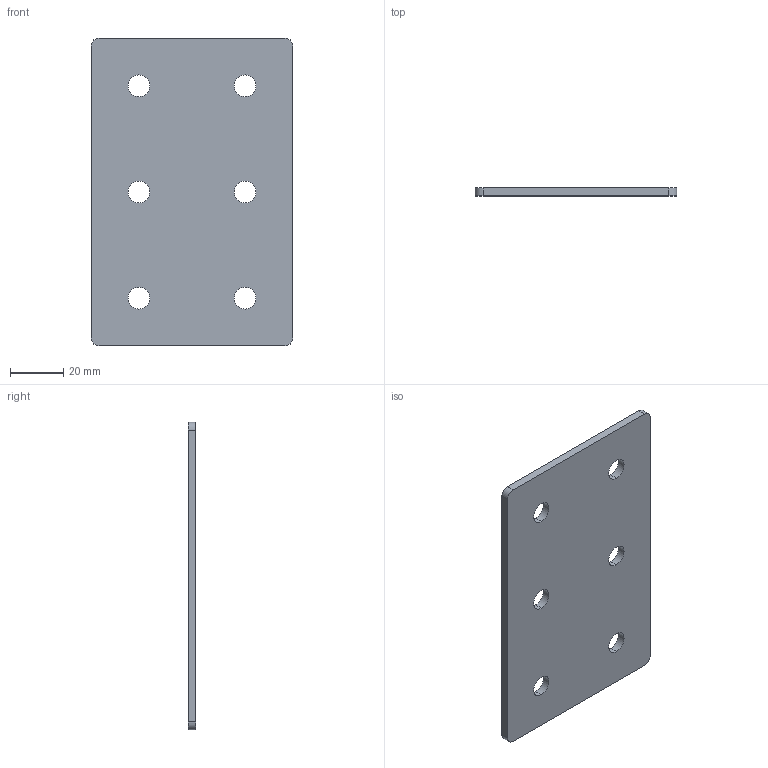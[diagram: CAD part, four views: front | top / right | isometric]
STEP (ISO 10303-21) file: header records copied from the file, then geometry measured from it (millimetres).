
FILE_DESCRIPTION (( 'STEP AP203' ), '1' );
FILE_NAME ('ﾏ-6-40.STEP', '2016-07-23T15:16:29', ( '' ), ( '' ), 'SwSTEP 2.0', 'SolidWorks 2014', '' );
FILE_SCHEMA (( 'CONFIG_CONTROL_DESIGN' ));
Length unit declared in the file: millimetre
Products named in the file (1): ﾏ-6-40
Bounding box: 76 x 3 x 116 mm (x, y, z)
Surface area: 18583.1 mm2 (no closed solid volume)
Topology: 0 solids, 1 shells, 22 faces, 60 edges, 40 vertices
Faces by surface type: cylinder 16, plane 6
Entity records: 817 total; most frequent: DIRECTION 138, CARTESIAN_POINT 123, ORIENTED_EDGE 120, EDGE_CURVE 60, AXIS2_PLACEMENT_3D 55, VERTEX_POINT 40, EDGE_LOOP 34, CIRCLE 32
